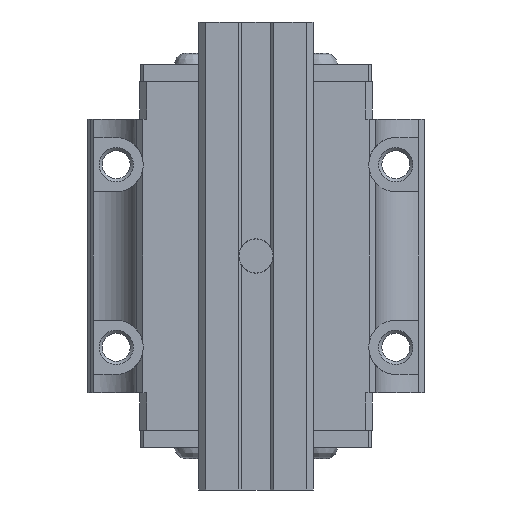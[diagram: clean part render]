
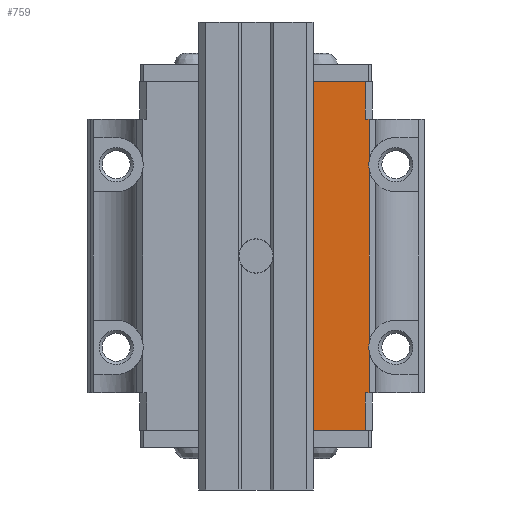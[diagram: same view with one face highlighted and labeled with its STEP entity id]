
A CAD part, front view. The second image highlights one B-rep face of the part: STEP entity #759.
In plain terms, the highlighted planar face has unit normal (0, -1, 0).
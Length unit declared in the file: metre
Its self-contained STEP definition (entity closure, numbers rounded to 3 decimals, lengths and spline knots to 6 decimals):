
#759 = ADVANCED_FACE( '', ( #1592 ), #1593, .F. );
#1592 = FACE_OUTER_BOUND( '', #2602, .T. );
#1593 = PLANE( '', #2603 );
#2602 = EDGE_LOOP( '', ( #4755, #4756, #4757, #4758, #4759, #4760, #4761, #4762, #4763, #4764, #4765, #4766 ) );
#2603 = AXIS2_PLACEMENT_3D( '', #4767, #4768, #4769 );
#4755 = ORIENTED_EDGE( '', *, *, #5921, .T. );
#4756 = ORIENTED_EDGE( '', *, *, #5864, .F. );
#4757 = ORIENTED_EDGE( '', *, *, #5380, .T. );
#4758 = ORIENTED_EDGE( '', *, *, #5512, .F. );
#4759 = ORIENTED_EDGE( '', *, *, #5092, .T. );
#4760 = ORIENTED_EDGE( '', *, *, #5669, .F. );
#4761 = ORIENTED_EDGE( '', *, *, #5788, .T. );
#4762 = ORIENTED_EDGE( '', *, *, #5327, .T. );
#4763 = ORIENTED_EDGE( '', *, *, #5677, .F. );
#4764 = ORIENTED_EDGE( '', *, *, #5617, .T. );
#4765 = ORIENTED_EDGE( '', *, *, #5785, .F. );
#4766 = ORIENTED_EDGE( '', *, *, #5816, .T. );
#4767 = CARTESIAN_POINT( '', ( 0.0198, 0.006, -0.017 ) );
#4768 = DIRECTION( '', ( 0., 1., 0. ) );
#4769 = DIRECTION( '', ( 1., 0., 0. ) );
#5092 = EDGE_CURVE( '', #6037, #6034, #6038, .T. );
#5327 = EDGE_CURVE( '', #6441, #6439, #6442, .T. );
#5380 = EDGE_CURVE( '', #6525, #6523, #6526, .T. );
#5512 = EDGE_CURVE( '', #6037, #6523, #6736, .F. );
#5617 = EDGE_CURVE( '', #6890, #6888, #6891, .F. );
#5669 = EDGE_CURVE( '', #6964, #6034, #6966, .F. );
#5677 = EDGE_CURVE( '', #6890, #6439, #6976, .T. );
#5785 = EDGE_CURVE( '', #7121, #6888, #7123, .T. );
#5788 = EDGE_CURVE( '', #6964, #6441, #7126, .T. );
#5816 = EDGE_CURVE( '', #7121, #7160, #7161, .F. );
#5864 = EDGE_CURVE( '', #6525, #7220, #7221, .F. );
#5921 = EDGE_CURVE( '', #7160, #7220, #7285, .F. );
#6034 = VERTEX_POINT( '', #7430 );
#6037 = VERTEX_POINT( '', #7433 );
#6038 = LINE( '', #7434, #7435 );
#6439 = VERTEX_POINT( '', #8031 );
#6441 = VERTEX_POINT( '', #8033 );
#6442 = CIRCLE( '', #8034, 0.00475 );
#6523 = VERTEX_POINT( '', #8145 );
#6525 = VERTEX_POINT( '', #8148 );
#6526 = LINE( '', #8149, #8150 );
#6736 = LINE( '', #8477, #8478 );
#6888 = VERTEX_POINT( '', #8690 );
#6890 = VERTEX_POINT( '', #8693 );
#6891 = LINE( '', #8694, #8695 );
#6964 = VERTEX_POINT( '', #8798 );
#6966 = CIRCLE( '', #8800, 0.00475 );
#6976 = LINE( '', #8843, #8844 );
#7121 = VERTEX_POINT( '', #9045 );
#7123 = LINE( '', #9048, #9049 );
#7126 = LINE( '', #9053, #9054 );
#7160 = VERTEX_POINT( '', #9112 );
#7161 = LINE( '', #9113, #9114 );
#7220 = VERTEX_POINT( '', #9195 );
#7221 = LINE( '', #9196, #9197 );
#7285 = LINE( '', #9286, #9287 );
#7430 = CARTESIAN_POINT( '', ( 0.0198, 0.006, -0.057687 ) );
#7433 = CARTESIAN_POINT( '', ( 0.0198, 0.006, -0.065 ) );
#7434 = CARTESIAN_POINT( '', ( 0.0198, 0.006, -0.017 ) );
#7435 = VECTOR( '', #9366, 1. );
#8031 = CARTESIAN_POINT( '', ( 0.0198, 0.006, -0.024313 ) );
#8033 = CARTESIAN_POINT( '', ( 0.0198, 0.006, -0.025687 ) );
#8034 = AXIS2_PLACEMENT_3D( '', #9622, #9623, #9624 );
#8145 = CARTESIAN_POINT( '', ( 0.01915, 0.006, -0.065 ) );
#8148 = CARTESIAN_POINT( '', ( 0.01915, 0.006, -0.0715 ) );
#8149 = CARTESIAN_POINT( '', ( 0.01915, 0.006, -0.017 ) );
#8150 = VECTOR( '', #9677, 1. );
#8477 = CARTESIAN_POINT( '', ( 0.01425, 0.006, -0.065 ) );
#8478 = VECTOR( '', #9819, 1. );
#8690 = CARTESIAN_POINT( '', ( 0.01915, 0.006, -0.017 ) );
#8693 = CARTESIAN_POINT( '', ( 0.0198, 0.006, -0.017 ) );
#8694 = CARTESIAN_POINT( '', ( 0.0198, 0.006, -0.017 ) );
#8695 = VECTOR( '', #9917, 1. );
#8798 = CARTESIAN_POINT( '', ( 0.0198, 0.006, -0.056313 ) );
#8800 = AXIS2_PLACEMENT_3D( '', #9972, #9973, #9974 );
#8843 = CARTESIAN_POINT( '', ( 0.0198, 0.006, -0.0105 ) );
#8844 = VECTOR( '', #9978, 1. );
#9045 = CARTESIAN_POINT( '', ( 0.01915, 0.006, -0.0105 ) );
#9048 = CARTESIAN_POINT( '', ( 0.01915, 0.006, -0.0105 ) );
#9049 = VECTOR( '', #10084, 1. );
#9053 = CARTESIAN_POINT( '', ( 0.0198, 0.006, -0.017 ) );
#9054 = VECTOR( '', #10086, 1. );
#9112 = CARTESIAN_POINT( '', ( 0.007748, 0.006, -0.0105 ) );
#9113 = CARTESIAN_POINT( '', ( 0.0198, 0.006, -0.0105 ) );
#9114 = VECTOR( '', #10114, 1. );
#9195 = CARTESIAN_POINT( '', ( 0.007748, 0.006, -0.0715 ) );
#9196 = CARTESIAN_POINT( '', ( 0., 0.006, -0.0715 ) );
#9197 = VECTOR( '', #10170, 1. );
#9286 = CARTESIAN_POINT( '', ( 0.007748, 0.006, -0.017 ) );
#9287 = VECTOR( '', #10211, 1. );
#9366 = DIRECTION( '', ( 0., 0., 1. ) );
#9622 = CARTESIAN_POINT( '', ( 0.0245, 0.006, -0.025 ) );
#9623 = DIRECTION( '', ( 0., 1., 0. ) );
#9624 = DIRECTION( '', ( 0., 0., 1. ) );
#9677 = DIRECTION( '', ( 0., 0., 1. ) );
#9819 = DIRECTION( '', ( 1., 0., 0. ) );
#9917 = DIRECTION( '', ( 1., 0., 0. ) );
#9972 = CARTESIAN_POINT( '', ( 0.0245, 0.006, -0.057 ) );
#9973 = DIRECTION( '', ( 0., 1., 0. ) );
#9974 = DIRECTION( '', ( 0., 0., 1. ) );
#9978 = DIRECTION( '', ( 0., 0., -1. ) );
#10084 = DIRECTION( '', ( 0., 0., -1. ) );
#10086 = DIRECTION( '', ( 0., 0., 1. ) );
#10114 = DIRECTION( '', ( 1., 0., 0. ) );
#10170 = DIRECTION( '', ( 1., 0., 0. ) );
#10211 = DIRECTION( '', ( 0., 0., 1. ) );
